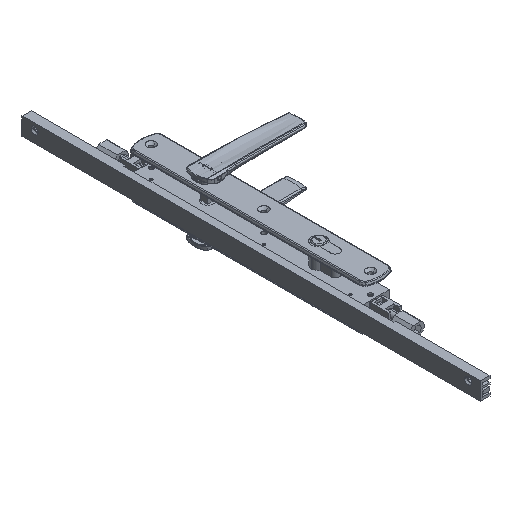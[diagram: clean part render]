
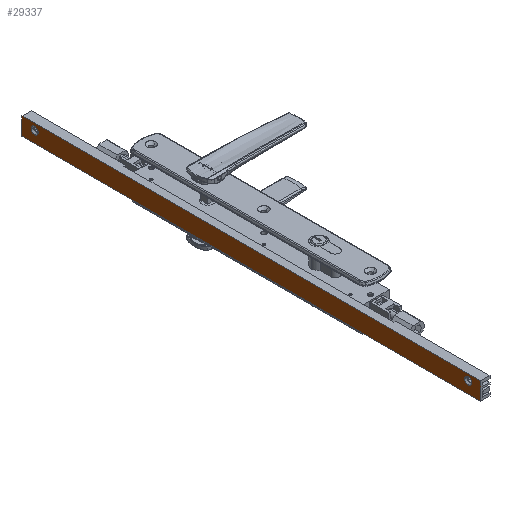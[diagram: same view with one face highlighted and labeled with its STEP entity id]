
A CAD part, isometric view. The second image highlights one B-rep face of the part: STEP entity #29337.
In plain terms, the highlighted planar face has unit normal (-1, 0, 0) as drawn and (0, 1, 0) by its records, which use the part's own axes.
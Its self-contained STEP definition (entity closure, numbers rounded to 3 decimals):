
#133 = AXIS2_PLACEMENT_3D ( 'NONE', #46987, #30490, #14498 ) ;
#1215 = VECTOR ( 'NONE', #49862, 1000. ) ;
#1252 = VERTEX_POINT ( 'NONE', #34042 ) ;
#1421 = CARTESIAN_POINT ( 'NONE',  ( 19.3, 12.4, 544. ) ) ;
#1509 = CIRCLE ( 'NONE', #38036, 4.216 ) ;
#3439 = DIRECTION ( 'NONE',  ( 0., 0., 1. ) ) ;
#3517 = EDGE_CURVE ( 'NONE', #52662, #30086, #48692, .T. ) ;
#3985 = DIRECTION ( 'NONE',  ( 0., 0., -1. ) ) ;
#4024 = DIRECTION ( 'NONE',  ( 1., 0., 0. ) ) ;
#4930 = CIRCLE ( 'NONE', #11708, 4.216 ) ;
#5221 = ORIENTED_EDGE ( 'NONE', *, *, #37985, .F. ) ;
#5508 = ORIENTED_EDGE ( 'NONE', *, *, #28711, .T. ) ;
#6901 = VERTEX_POINT ( 'NONE', #8169 ) ;
#7931 = CARTESIAN_POINT ( 'NONE',  ( 19.3, 12.4, 544. ) ) ;
#7983 = ORIENTED_EDGE ( 'NONE', *, *, #24039, .F. ) ;
#8169 = CARTESIAN_POINT ( 'NONE',  ( 11.8, 12.4, 10.784 ) ) ;
#8233 = DIRECTION ( 'NONE',  ( -1., 0., 0. ) ) ;
#9137 = EDGE_CURVE ( 'NONE', #6901, #51329, #4930, .T. ) ;
#9441 = EDGE_CURVE ( 'NONE', #51329, #6901, #1509, .T. ) ;
#10770 = DIRECTION ( 'NONE',  ( 0., 1., 0. ) ) ;
#11200 = VERTEX_POINT ( 'NONE', #16506 ) ;
#11667 = CARTESIAN_POINT ( 'NONE',  ( 11.8, 12.4, 529. ) ) ;
#11708 = AXIS2_PLACEMENT_3D ( 'NONE', #18695, #30695, #50648 ) ;
#11940 = EDGE_LOOP ( 'NONE', ( #5221, #7983 ) ) ;
#12594 = VECTOR ( 'NONE', #8233, 1000. ) ;
#13152 = VERTEX_POINT ( 'NONE', #15406 ) ;
#13346 = ORIENTED_EDGE ( 'NONE', *, *, #3517, .F. ) ;
#13640 = FACE_OUTER_BOUND ( 'NONE', #45256, .T. ) ;
#14498 = DIRECTION ( 'NONE',  ( 0., 0., 1. ) ) ;
#15104 = VERTEX_POINT ( 'NONE', #42845 ) ;
#15406 = CARTESIAN_POINT ( 'NONE',  ( 11.8, 12.4, 524.784 ) ) ;
#15548 = EDGE_LOOP ( 'NONE', ( #23025, #50225 ) ) ;
#15926 = EDGE_CURVE ( 'NONE', #30086, #15104, #44435, .T. ) ;
#16506 = CARTESIAN_POINT ( 'NONE',  ( 19.3, 12.4, 0. ) ) ;
#18359 = ORIENTED_EDGE ( 'NONE', *, *, #20076, .T. ) ;
#18695 = CARTESIAN_POINT ( 'NONE',  ( 11.8, 12.4, 15. ) ) ;
#18938 = FACE_BOUND ( 'NONE', #15548, .T. ) ;
#19607 = CARTESIAN_POINT ( 'NONE',  ( -1.7, 12.4, 544. ) ) ;
#19840 = DIRECTION ( 'NONE',  ( -1., 0., 0. ) ) ;
#20076 = EDGE_CURVE ( 'NONE', #52662, #11200, #41597, .T. ) ;
#20104 = CARTESIAN_POINT ( 'NONE',  ( 20.8, 12.4, 0. ) ) ;
#20500 = VECTOR ( 'NONE', #3985, 1000. ) ;
#23025 = ORIENTED_EDGE ( 'NONE', *, *, #9441, .F. ) ;
#23085 = CIRCLE ( 'NONE', #133, 4.216 ) ;
#23416 = CARTESIAN_POINT ( 'NONE',  ( 20.8, 12.4, 544. ) ) ;
#23793 = CIRCLE ( 'NONE', #52665, 4.216 ) ;
#24039 = EDGE_CURVE ( 'NONE', #13152, #1252, #23085, .T. ) ;
#24207 = CARTESIAN_POINT ( 'NONE',  ( -1.7, 12.4, 544. ) ) ;
#26354 = AXIS2_PLACEMENT_3D ( 'NONE', #48464, #43947, #4024 ) ;
#27829 = LINE ( 'NONE', #20104, #38642 ) ;
#28711 = EDGE_CURVE ( 'NONE', #11200, #15104, #27829, .T. ) ;
#29337 = ADVANCED_FACE ( 'NONE', ( #18938, #35157, #13640 ), #47413, .F. ) ;
#30086 = VERTEX_POINT ( 'NONE', #19607 ) ;
#30490 = DIRECTION ( 'NONE',  ( 0., 1., 0. ) ) ;
#30695 = DIRECTION ( 'NONE',  ( 0., 1., 0. ) ) ;
#30749 = DIRECTION ( 'NONE',  ( 0., 0., 1. ) ) ;
#34042 = CARTESIAN_POINT ( 'NONE',  ( 11.8, 12.4, 533.216 ) ) ;
#35157 = FACE_BOUND ( 'NONE', #11940, .T. ) ;
#37985 = EDGE_CURVE ( 'NONE', #1252, #13152, #23793, .T. ) ;
#38036 = AXIS2_PLACEMENT_3D ( 'NONE', #38175, #10770, #30749 ) ;
#38175 = CARTESIAN_POINT ( 'NONE',  ( 11.8, 12.4, 15. ) ) ;
#38642 = VECTOR ( 'NONE', #19840, 1000. ) ;
#41251 = ORIENTED_EDGE ( 'NONE', *, *, #15926, .F. ) ;
#41597 = LINE ( 'NONE', #1421, #1215 ) ;
#42845 = CARTESIAN_POINT ( 'NONE',  ( -1.7, 12.4, 0. ) ) ;
#43624 = DIRECTION ( 'NONE',  ( 0., 1., 0. ) ) ;
#43947 = DIRECTION ( 'NONE',  ( 0., -1., 0. ) ) ;
#44435 = LINE ( 'NONE', #24207, #20500 ) ;
#44908 = CARTESIAN_POINT ( 'NONE',  ( 11.8, 12.4, 19.216 ) ) ;
#45256 = EDGE_LOOP ( 'NONE', ( #13346, #18359, #5508, #41251 ) ) ;
#46987 = CARTESIAN_POINT ( 'NONE',  ( 11.8, 12.4, 529. ) ) ;
#47413 = PLANE ( 'NONE',  #26354 ) ;
#48464 = CARTESIAN_POINT ( 'NONE',  ( 20.8, 12.4, 544. ) ) ;
#48692 = LINE ( 'NONE', #23416, #12594 ) ;
#49862 = DIRECTION ( 'NONE',  ( 0., 0., -1. ) ) ;
#50225 = ORIENTED_EDGE ( 'NONE', *, *, #9137, .F. ) ;
#50648 = DIRECTION ( 'NONE',  ( 0., 0., 1. ) ) ;
#51329 = VERTEX_POINT ( 'NONE', #44908 ) ;
#52662 = VERTEX_POINT ( 'NONE', #7931 ) ;
#52665 = AXIS2_PLACEMENT_3D ( 'NONE', #11667, #43624, #3439 ) ;
